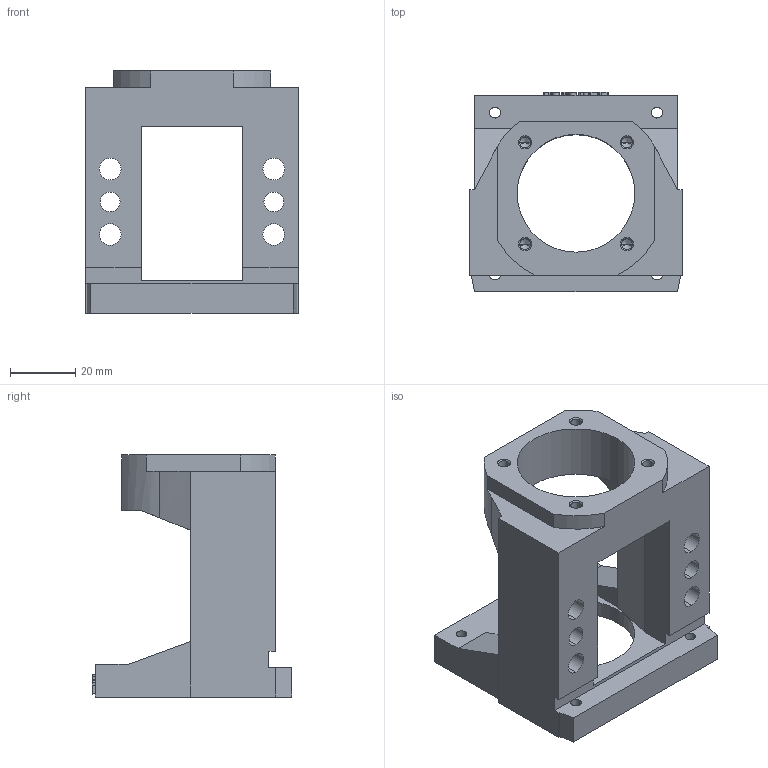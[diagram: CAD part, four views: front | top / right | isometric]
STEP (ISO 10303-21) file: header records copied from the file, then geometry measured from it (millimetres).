
FILE_DESCRIPTION((''),'2;1');
FILE_NAME('M60DP-FK12-A','2020-08-24T',('Administrator'),(''),'PRO/ENGINEER BY PARAMETRIC TECHNOLOGY CORPORATION, 2010280','PRO/ENGINEER BY PARAMETRIC TECHNOLOGY CORPORATION, 2010280','');
FILE_SCHEMA(('CONFIG_CONTROL_DESIGN'));
Length unit declared in the file: millimetre
Products named in the file (1): M60DP-FK12-A
Bounding box: 65 x 61 x 74 mm (x, y, z)
Volume: 84041 mm3; surface area: 28275.3 mm2
Topology: 1 solids, 1 shells, 238 faces, 639 edges, 415 vertices
Faces by surface type: plane 118, cylinder 52, extrusion 44, cone 24
Entity records: 8021 total; most frequent: CARTESIAN_POINT 2073, ORIENTED_EDGE 1262, DIRECTION 1098, EDGE_CURVE 631, VECTOR 456, VERTEX_POINT 415, LINE 412, AXIS2_PLACEMENT_3D 321
